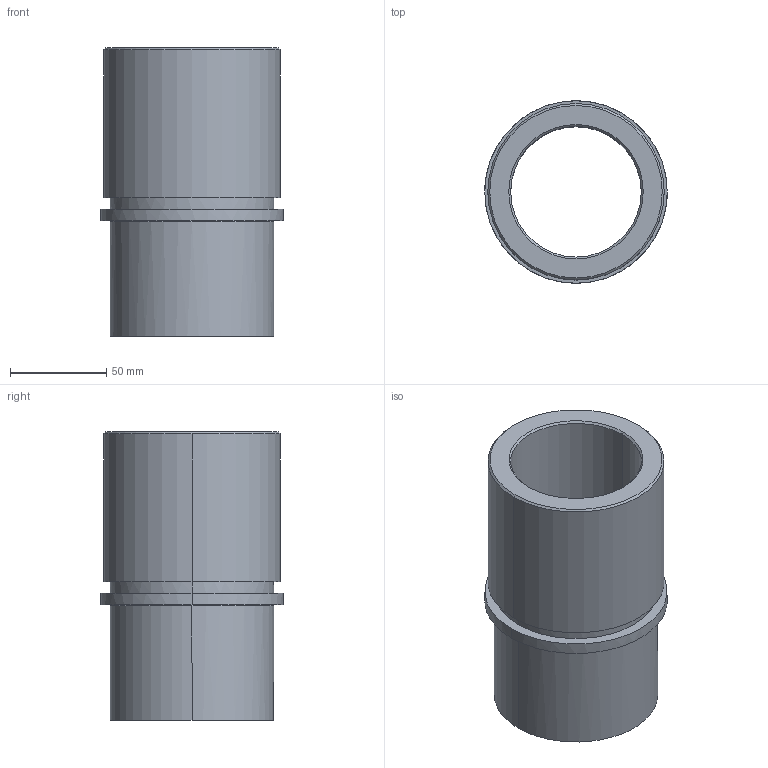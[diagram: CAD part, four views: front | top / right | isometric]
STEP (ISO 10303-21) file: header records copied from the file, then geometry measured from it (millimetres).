
FILE_DESCRIPTION(('CATIA V5 STEP Exchange'),'2;1');
FILE_NAME('C:\Users\Utente\Desktop\IO LAVORO\3D X SITO CF\X SITO\733\733-60.stp','2021-01-11T17:29:22+00:00',('none'),('none'),'CATIA Version 5 Release 20 GA (IN-10)','CATIA V5 STEP AP203','none');
FILE_SCHEMA(('CONFIG_CONTROL_DESIGN'));
Length unit declared in the file: millimetre
Products named in the file (1): 733-60
Assembly tree (1 placements, depth 2):
  733-60
    #58
Bounding box: 95 x 95 x 150 mm (x, y, z)
Volume: 387970.9 mm3; surface area: 82769.2 mm2
Topology: 1 solids, 1 shells, 25 faces, 50 edges, 30 vertices
Faces by surface type: cylinder 10, cone 6, plane 5, torus 4
Entity records: 851 total; most frequent: CARTESIAN_POINT 282, ORIENTED_EDGE 100, DIRECTION 96, AXIS2_PLACEMENT_3D 53, EDGE_CURVE 50, EDGE_LOOP 30, VERTEX_POINT 30, CIRCLE 26
